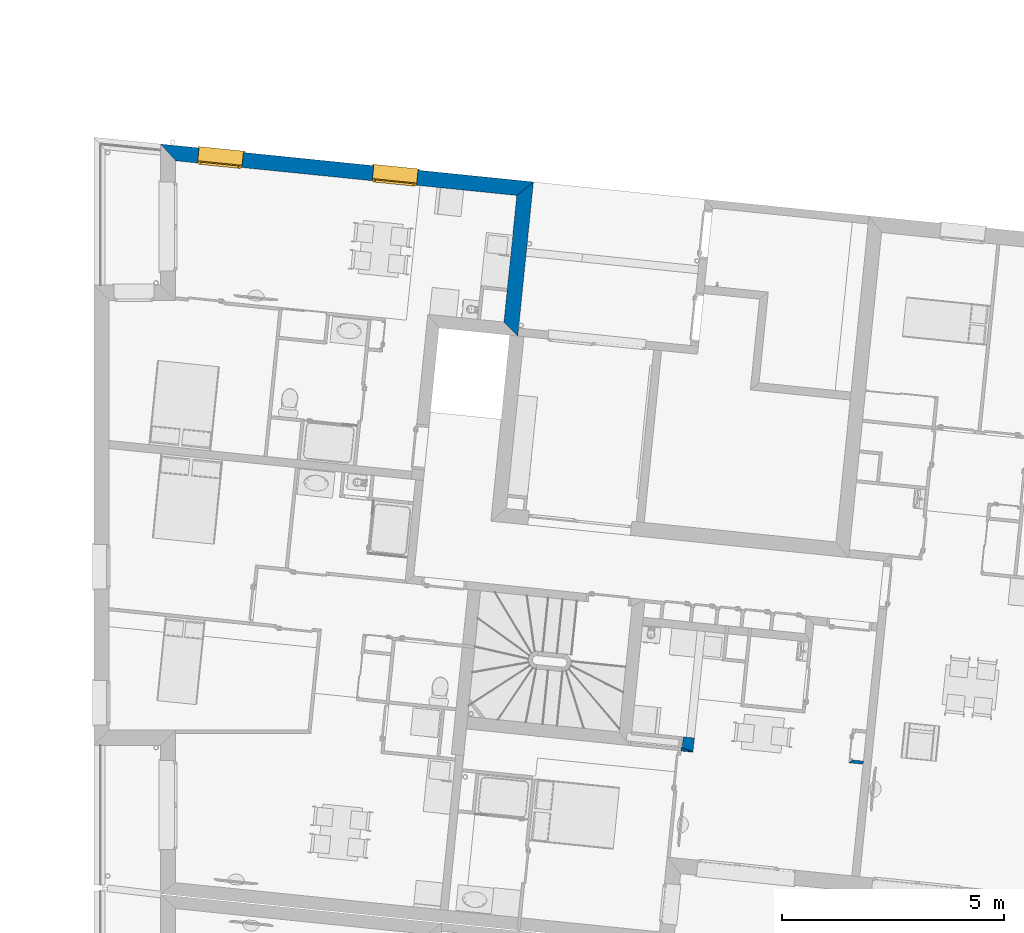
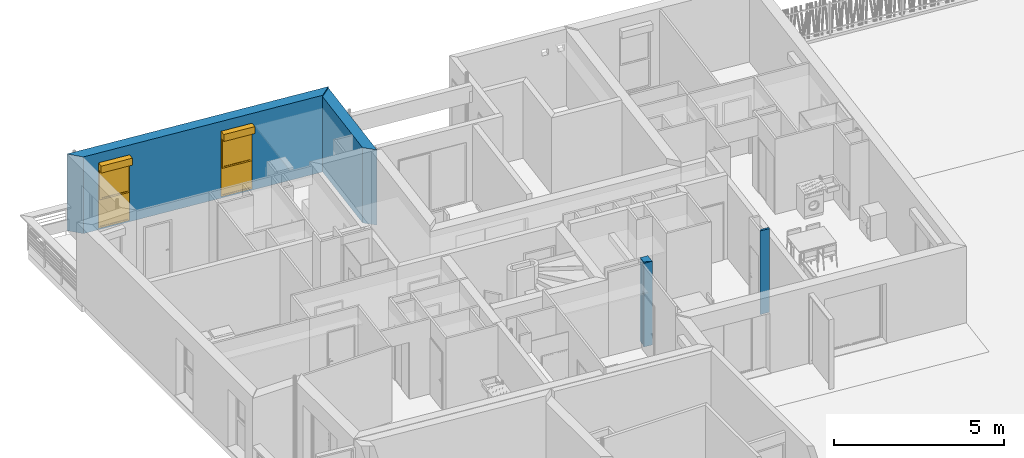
# One storey, part 72 of 171: 5 walls, 2 windows, 2 openings.
"""IFC2X3 building model written with IfcOpenShell, lengths in millimetres."""

from ifc_helpers import new_model, entity, si_unit, converted_unit, derived_unit, money_unit, direction, frame, origin_with_axes, place, context, subcontext, project, spatial, polyline, outline, extrude, open_shell, faceted_brep, surface_model, source, transform, mapped, material, layer, layer_set, layer_usage, type_object, element, fill, save


model = new_model("IFC2X3")

# Units and contexts
model_context = context("Model", 3, precision=0.01, world=origin_with_axes(), true_north=direction((0.0, 1.0)))
body_context = subcontext(model_context, "Body", "Model", "MODEL_VIEW")
ifc_project = project(units=[si_unit("LENGTHUNIT", "METRE", prefix="MILLI"), si_unit("AREAUNIT", "SQUARE_METRE"), si_unit("VOLUMEUNIT", "CUBIC_METRE"), converted_unit("PLANEANGLEUNIT", "DEGREE", entity("IfcPlaneAngleMeasure", 0.0174532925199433), si_unit("PLANEANGLEUNIT", "RADIAN"), dimensions=[0, 0, 0, 0, 0, 0, 0]), money_unit("USD"), converted_unit("TIMEUNIT", "Year", entity("IfcTimeMeasure", 31557600.0), si_unit("TIMEUNIT", "SECOND"), dimensions=[0, 0, 1, 0, 0, 0, 0]), si_unit("MASSUNIT", "GRAM", prefix="KILO"), si_unit("THERMODYNAMICTEMPERATUREUNIT", "DEGREE_CELSIUS"), si_unit("LUMINOUSINTENSITYUNIT", "LUMEN"), si_unit("ENERGYUNIT", "JOULE", prefix="MEGA"), derived_unit("THERMALCONDUCTANCEUNIT", [(si_unit("POWERUNIT", "WATT"), 1), (si_unit("LENGTHUNIT", "METRE"), -1), (si_unit("THERMODYNAMICTEMPERATUREUNIT", "KELVIN"), -1)]), derived_unit("SPECIFICHEATCAPACITYUNIT", [(si_unit("ENERGYUNIT", "JOULE"), 1), (si_unit("MASSUNIT", "GRAM", prefix="KILO"), -1), (si_unit("THERMODYNAMICTEMPERATUREUNIT", "KELVIN"), -1)]), derived_unit("MASSDENSITYUNIT", [(si_unit("MASSUNIT", "GRAM", prefix="KILO"), 1), (si_unit("VOLUMEUNIT", "CUBIC_METRE"), -1)])], contexts=[model_context])

# Site, building, storey
site_placement = place(None, origin_with_axes())
site = spatial("IfcSite", under=ifc_project, at=site_placement, Name="Site", CompositionType="ELEMENT")
building_placement = place(site_placement, origin_with_axes())
building = spatial("IfcBuilding", under=site, at=building_placement, Name="Bâtiment", CompositionType="ELEMENT")
storey_placement = place(building_placement, frame((0.0, 0.0, 3000.0), z_axis=(0.0, 0.0, 1.0), x_axis=(1.0, 0.0, 0.0)))
storey = spatial("IfcBuildingStorey", under=building, at=storey_placement, Name="rdc", CompositionType="ELEMENT", Elevation=3000.0)

# Walls
ifc_material_1 = material(Name="Parpaing 314940890")
ifc_layer_1 = layer(ifc_material_1, 250.0, ventilated="UNKNOWN")
ifc_layer_set_1 = layer_set([ifc_layer_1], Name="Beton  25")
ifc_layer_usage_1 = layer_usage(ifc_layer_set_1, "AXIS2", "NEGATIVE", 0.0)
wall_type_1 = type_object("IfcWallType", Name="Beton  25 250", PredefinedType="NOTDEFINED")
wall_1_placement = place(storey_placement, frame((2230130.028191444, -617343.1612765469, 0.0), z_axis=(0.0, 0.0, 1.0), x_axis=(-0.1011032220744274, -0.9948759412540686, 0.0)))
element("IfcWallStandardCase", 1, at=wall_1_placement, inside=storey, type_object=wall_type_1, material=ifc_layer_usage_1, Name="Mur-142", context=body_context, shape_type="SweptSolid", body=[
    extrude(outline(polyline([(0.0, -250.0), (246.1922032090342, -250.0), (316.1922032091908, 0.0), (0.0, 0.0), (0.0, -250.0)])), origin_with_axes(), (0.0, 0.0, 1.0), 3000.0),
])
ifc_material_2 = material(Name="Hachure solide 268963992")
ifc_layer_2 = layer(ifc_material_2, 70.0, ventilated="UNKNOWN")
ifc_layer_set_2 = layer_set([ifc_layer_2], Name="Cloison 70 0826278243")
ifc_layer_usage_2 = layer_usage(ifc_layer_set_2, "AXIS2", "POSITIVE", 0.0)
wall_type_2 = type_object("IfcWallType", Name="Cloison 70 0826278243 70", PredefinedType="NOTDEFINED")
wall_2_placement = place(storey_placement, frame((2234107.929832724, -617880.438621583, 0.0), z_axis=(0.0, 0.0, 1.0), x_axis=(-0.9949332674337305, 0.1005375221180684, 0.0)))
element("IfcWallStandardCase", 2, at=wall_2_placement, inside=storey, type_object=wall_type_2, material=ifc_layer_usage_2, Name="Mur-153", context=body_context, shape_type="SweptSolid", body=[
    extrude(outline(polyline([(180.0000081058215, 0.0), (429.8110483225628, 0.0), (499.8110483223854, 70.00000000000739), (180.0210155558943, 70.00000000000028), (180.0000081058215, 0.0)])), origin_with_axes(), (0.0, 0.0, 1.0), 3000.0),
])
ifc_layer_usage_3 = layer_usage(ifc_layer_set_2, "AXIS2", "POSITIVE", 0.0)
wall_3_placement = place(storey_placement, frame((2229759.717069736, -617623.3495332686, 0.0), z_axis=(0.0, 0.0, 1.0), x_axis=(0.994875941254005, -0.1011032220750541, 0.0)))
element("IfcWallStandardCase", 3, at=wall_3_placement, inside=storey, type_object=wall_type_2, material=ifc_layer_usage_3, Name="Mur-152", context=body_context, shape_type="SweptSolid", body=[
    extrude(outline(polyline([(70.00000004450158, 0.0), (340.0856902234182, 0.0), (90.0856902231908, 70.00000000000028), (69.99751002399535, 69.99999999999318), (70.00000004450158, 0.0)])), origin_with_axes(), (0.0, 0.0, 1.0), 3000.0),
])

# Wall, openings, windows
ifc_material_3 = material(Name="Parpaing 312445824")
ifc_layer_3 = layer(ifc_material_3, 180.0, ventilated="UNKNOWN")
ifc_material_4 = material(Name="Isolant styromousse 301821074")
ifc_layer_4 = layer(ifc_material_4, 160.0, ventilated="UNKNOWN")
ifc_layer_set_3 = layer_set([ifc_layer_3, ifc_layer_4], Name="isol int 18+16 0018356637")
ifc_layer_usage_4 = layer_usage(ifc_layer_set_3, "AXIS2", "POSITIVE", 0.0)
wall_type_3 = type_object("IfcWallType", Name="isol int 18+16 0018356637 340", PredefinedType="NOTDEFINED")
wall_4_placement = place(storey_placement, frame((2226512.64140385, -604846.9212674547, 0.0), z_axis=(0.0, 0.0, 1.0), x_axis=(-0.9948759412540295, 0.1011032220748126, 0.0)))
wall_4 = element("IfcWallStandardCase", 4, at=wall_4_placement, inside=storey, type_object=wall_type_3, material=ifc_layer_usage_4, Name="Mur-142", context=body_context, shape_type="SweptSolid", body=[
    extrude(outline(polyline([(0.0, 0.0), (8421.560630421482, 0.0), (8045.257334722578, 339.9999999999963), (340.0000338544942, 339.9999999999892), (0.0, 0.0)])), origin_with_axes(), (0.0, 0.0, 1.0), 2750.0),
])
opening_1_placement = place(wall_4_placement, frame((3106.165930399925, 0.0, 49.99999999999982), z_axis=(0.0, 0.0, 1.0), x_axis=(1.0, 0.0, 0.0)))
opening_1 = element("IfcOpeningElement", 5, at=opening_1_placement, cuts=wall_4, Name="Fen-133", context=body_context, shape_type="Brep", body=[
    faceted_brep([(500.0, 280.0000000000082, 2100.0), (-500.0, 280.0000000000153, 2100.0), (-500.0, -848.084050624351, 2100.0), (500.0, -848.084050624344, 2100.0), (500.0, 280.0000000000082, 2350.0), (-500.0, 280.0000000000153, 2350.0), (-500.0, 289.9999999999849, 2100.0), (-500.0000000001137, 289.9999999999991, 0.0), (-500.0, -848.084050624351, 0.0), (500.0, -848.084050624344, 0.0), (500.0, 290.0000000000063, 2100.0), (500.0, 290.0000000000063, 0.0), (499.9999999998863, 530.0000000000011, 2100.0), (499.9999999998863, 530.0000000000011, 2350.0), (-500.0, 530.0000000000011, 2350.0), (-500.0, 530.0000000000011, 2100.0), (-500.0000000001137, 1188.084050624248, 2100.0), (-500.0000000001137, 1188.084050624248, 0.0), (500.0, 1188.084050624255, 0.0), (500.0, 1188.084050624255, 2100.0)], [[[0, 1, 2, 3]], [[1, 0, 4, 5]], [[1, 6, 7, 8, 2]], [[2, 8, 9, 3]], [[10, 0, 3, 9, 11]], [[0, 10, 12, 13, 4]], [[4, 13, 14, 5]], [[6, 1, 5, 14, 15]], [[6, 15, 16, 17, 7]], [[11, 9, 8, 7, 17, 18]], [[12, 10, 11, 18, 19]], [[12, 15, 14, 13]], [[15, 12, 19, 16]], [[19, 18, 17, 16]]]),
])
opening_2_placement = place(wall_4_placement, frame((7051.703439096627, 0.0, 49.99999999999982), z_axis=(0.0, 0.0, 1.0), x_axis=(1.0, 0.0, 0.0)))
opening_2 = element("IfcOpeningElement", 6, at=opening_2_placement, cuts=wall_4, Name="Fen-133", context=body_context, shape_type="Brep", body=[
    faceted_brep([(500.0, 279.999999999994, 2100.0), (-500.0000000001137, 280.0000000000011, 2100.0), (-500.0000000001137, -848.0840506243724, 2100.0), (499.9999999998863, -848.0840506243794, 2100.0), (500.0, 279.999999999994, 2350.0), (-500.0000000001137, 280.0000000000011, 2350.0), (-500.0, 289.9999999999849, 2100.0), (-500.0000000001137, 289.9999999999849, 0.0), (-500.0000000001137, -848.0840506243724, 0.0), (499.9999999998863, -848.0840506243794, 0.0), (499.9999999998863, 289.9999999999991, 2100.0), (499.9999999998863, 289.9999999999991, 0.0), (499.9999999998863, 530.0000000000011, 2100.0), (499.9999999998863, 530.0000000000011, 2350.0), (-500.0000000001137, 530.0000000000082, 2350.0), (-500.0000000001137, 530.0000000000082, 2100.0), (-500.0000000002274, 1188.084050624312, 2100.0), (-500.0000000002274, 1188.084050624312, 0.0), (500.0, 1188.084050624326, 0.0), (500.0, 1188.084050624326, 2100.0)], [[[0, 1, 2, 3]], [[1, 0, 4, 5]], [[1, 6, 7, 8, 2]], [[2, 8, 9, 3]], [[10, 0, 3, 9, 11]], [[0, 10, 12, 13, 4]], [[4, 13, 14, 5]], [[6, 1, 5, 14, 15]], [[6, 15, 16, 17, 7]], [[11, 9, 8, 7, 17, 18]], [[12, 10, 11, 18, 19]], [[12, 15, 14, 13]], [[15, 12, 19, 16]], [[19, 18, 17, 16]]]),
])
window_style = type_object("IfcWindowStyle", Name="Fenêtre 27", ConstructionType="NOTDEFINED", OperationType="DOUBLE_PANEL_HORIZONTAL", ParameterTakesPrecedence=False, Sizeable=False)
shared_shape = source(origin_with_axes(), body_context, "Body", "SurfaceModel", [
    surface_model("IfcShellBasedSurfaceModel", [(500.0, -51.00000000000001, 40.00000000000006), (500.0, -51.00000000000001, 50.00000000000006), (-500.0, -51.00000000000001, 50.0), (-500.0, -51.00000000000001, 40.0), (530.0, -369.9999999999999, 28.96551724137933), (530.0, -339.9999999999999, 30.00324289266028), (500.0, -339.9999999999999, 30.00324289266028), (-500.0, -339.9999999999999, 30.00324289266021), (-530.0, -339.9999999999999, 30.00324289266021), (-530.0, -369.9999999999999, 28.96551724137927), (530.0, -369.9999999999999, 8.96551724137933), (-530.0, -369.9999999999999, 8.965517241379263), (530.0, -359.9999999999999, 18.96551724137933), (-530.0, -359.9999999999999, 18.96551724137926)], [open_shell([[[0, 1, 2, 3]], [[4, 5, 6, 0, 3, 7, 8, 9]], [[10, 4, 9, 11]], [[12, 10, 11, 13]]])]),
    faceted_brep([(-500.0, -59.99999999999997, 2350.0), (-497.0, -59.99999999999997, 2350.0), (-497.0, 190.0, 2350.0), (-500.0, 190.0, 2350.0), (-500.0, -59.99999999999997, 2100.0), (-497.0, -59.99999999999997, 2100.0), (-497.0, 190.0, 2100.0), (-500.0, 190.0, 2100.0)], [[[0, 1, 2, 3]], [[4, 5, 1, 0]], [[1, 5, 6, 2]], [[3, 2, 6, 7]], [[0, 3, 7, 4]], [[7, 6, 5, 4]]]),
    faceted_brep([(497.0, -59.99999999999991, 2350.0), (500.0, -59.99999999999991, 2350.0), (500.0, 190.0000000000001, 2350.0), (497.0, 190.0000000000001, 2350.0), (497.0, -59.99999999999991, 2100.0), (500.0, -59.99999999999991, 2100.0), (500.0, 190.0000000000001, 2100.0), (497.0, 190.0000000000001, 2100.0)], [[[0, 1, 2, 3]], [[4, 5, 1, 0]], [[1, 5, 6, 2]], [[3, 2, 6, 7]], [[0, 3, 7, 4]], [[7, 6, 5, 4]]]),
    faceted_brep([(-497.0, -60.0, 2100.0), (497.0, -59.99999999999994, 2100.0), (497.0, -59.99999999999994, 2350.0), (-497.0, -60.0, 2350.0), (-497.0, -56.99999999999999, 2100.0), (497.0, -56.99999999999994, 2100.0), (497.0, -56.99999999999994, 2347.0), (497.0, 187.0000000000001, 2347.0), (497.0, 187.0000000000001, 2103.0), (497.0, -37.99999999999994, 2103.0), (497.0, -37.99999999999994, 2100.0), (497.0, 190.0000000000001, 2100.0), (497.0, 190.0000000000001, 2350.0), (-497.0, 190.0, 2350.0), (-497.0, 190.0, 2100.0), (-497.0, -37.99999999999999, 2100.0), (-497.0, -37.99999999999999, 2103.0), (-497.0, 187.0, 2103.0), (-497.0, 187.0, 2347.0), (-497.0, -56.99999999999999, 2347.0)], [[[0, 1, 2, 3]], [[4, 5, 1, 0]], [[1, 5, 6, 7, 8, 9, 10, 11, 12, 2]], [[3, 2, 12, 13]], [[0, 3, 13, 14, 15, 16, 17, 18, 19, 4]], [[19, 6, 5, 4]], [[18, 7, 6, 19]], [[17, 8, 7, 18]], [[16, 9, 8, 17]], [[15, 10, 9, 16]], [[14, 11, 10, 15]], [[13, 12, 11, 14]]]),
    faceted_brep([(-494.0, -40.37442957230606, 2206.419644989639), (-494.0, -41.99999999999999, 2225.0), (-494.0, -40.37442957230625, 2243.580355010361), (-494.0, -35.54711042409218, 2261.596155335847), (-494.0, -27.66471820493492, 2278.5), (-494.0, -16.96675541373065, 2293.77827423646), (-494.0, -3.778274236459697, 2306.966755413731), (-494.0, 11.5, 2317.664718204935), (-494.0, 28.40384466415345, 2325.547110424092), (-494.0, 46.41964498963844, 2330.374429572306), (-494.0, 64.99999999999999, 2332.0), (-494.0, 83.58035501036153, 2330.374429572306), (-494.0, 101.5961553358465, 2325.547110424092), (-494.0, 118.5, 2317.664718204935), (-494.0, 133.7782742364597, 2306.966755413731), (-494.0, 146.9667554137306, 2293.77827423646), (-494.0, 157.6647182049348, 2278.5), (-494.0, 165.5471104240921, 2261.596155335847), (-494.0, 170.3744295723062, 2243.580355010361), (-494.0, 171.9999999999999, 2225.0), (-494.0, 170.3744295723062, 2206.419644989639), (-494.0, 165.5471104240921, 2188.403844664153), (-494.0, 157.6647182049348, 2171.5), (-494.0, 146.9667554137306, 2156.22172576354), (-494.0, 133.7782742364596, 2143.03324458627), (-494.0, 118.4999999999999, 2132.335281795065), (-494.0, 101.5961553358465, 2124.452889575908), (-494.0, 83.58035501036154, 2119.625570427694), (-494.0, 65.00000000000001, 2118.0), (-494.0, 46.4196449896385, 2119.625570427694), (-494.0, 28.40384466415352, 2124.452889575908), (-494.0, 11.50000000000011, 2132.335281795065), (-494.0, -3.778274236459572, 2143.03324458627), (-494.0, -16.9667554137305, 2156.22172576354), (-494.0, -27.66471820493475, 2171.5), (-494.0, -35.54711042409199, 2188.403844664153), (494.0, -40.374429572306, 2206.419644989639), (494.0, -41.99999999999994, 2225.0), (494.0, -40.37442957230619, 2243.580355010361), (494.0, -35.54711042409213, 2261.596155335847), (494.0, -27.66471820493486, 2278.5), (494.0, -16.96675541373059, 2293.77827423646), (494.0, -3.778274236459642, 2306.966755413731), (494.0, 11.50000000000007, 2317.664718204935), (494.0, 28.40384466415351, 2325.547110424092), (494.0, 46.41964498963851, 2330.374429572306), (494.0, 65.00000000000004, 2332.0), (494.0, 83.58035501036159, 2330.374429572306), (494.0, 101.5961553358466, 2325.547110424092), (494.0, 118.5, 2317.664718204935), (494.0, 133.7782742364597, 2306.966755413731), (494.0, 146.9667554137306, 2293.77827423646), (494.0, 157.6647182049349, 2278.5), (494.0, 165.5471104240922, 2261.596155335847), (494.0, 170.3744295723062, 2243.580355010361), (494.0, 172.0, 2225.0), (494.0, 170.3744295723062, 2206.419644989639), (494.0, 165.5471104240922, 2188.403844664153), (494.0, 157.6647182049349, 2171.5), (494.0, 146.9667554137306, 2156.22172576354), (494.0, 133.7782742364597, 2143.03324458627), (494.0, 118.5, 2132.335281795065), (494.0, 101.5961553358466, 2124.452889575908), (494.0, 83.5803550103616, 2119.625570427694), (494.0, 65.00000000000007, 2118.0), (494.0, 46.41964498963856, 2119.625570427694), (494.0, 28.40384466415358, 2124.452889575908), (494.0, 11.50000000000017, 2132.335281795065), (494.0, -3.778274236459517, 2143.03324458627), (494.0, -16.96675541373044, 2156.22172576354), (494.0, -27.6647182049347, 2171.5), (494.0, -35.54711042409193, 2188.403844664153)], [[[0, 1, 2, 3, 4, 5, 6, 7, 8, 9, 10, 11, 12, 13, 14, 15, 16, 17, 18, 19, 20, 21, 22, 23, 24, 25, 26, 27, 28, 29, 30, 31, 32, 33, 34, 35]], [[0, 36, 37, 1]], [[1, 37, 38, 2]], [[2, 38, 39, 3]], [[3, 39, 40, 4]], [[4, 40, 41, 5]], [[5, 41, 42, 6]], [[6, 42, 43, 7]], [[7, 43, 44, 8]], [[8, 44, 45, 9]], [[9, 45, 46, 10]], [[10, 46, 47, 11]], [[11, 47, 48, 12]], [[12, 48, 49, 13]], [[13, 49, 50, 14]], [[14, 50, 51, 15]], [[15, 51, 52, 16]], [[16, 52, 53, 17]], [[17, 53, 54, 18]], [[18, 54, 55, 19]], [[19, 55, 56, 20]], [[20, 56, 57, 21]], [[21, 57, 58, 22]], [[22, 58, 59, 23]], [[23, 59, 60, 24]], [[24, 60, 61, 25]], [[25, 61, 62, 26]], [[26, 62, 63, 27]], [[27, 63, 64, 28]], [[28, 64, 65, 29]], [[29, 65, 66, 30]], [[30, 66, 67, 31]], [[31, 67, 68, 32]], [[32, 68, 69, 33]], [[33, 69, 70, 34]], [[34, 70, 71, 35]], [[35, 71, 36, 0]], [[36, 71, 70, 69, 68, 67, 66, 65, 64, 63, 62, 61, 60, 59, 58, 57, 56, 55, 54, 53, 52, 51, 50, 49, 48, 47, 46, 45, 44, 43, 42, 41, 40, 39, 38, 37]]]),
    faceted_brep([(500.0, -34.99999999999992, 30.0), (500.0, -34.99999999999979, 2100.0), (500.0, -59.99999999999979, 2100.0), (500.0, -59.99999999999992, 30.0), (475.0, -34.99999999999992, 30.0), (475.0, -34.99999999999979, 2100.0), (475.0, -37.99999999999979, 2100.0), (497.0, -37.99999999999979, 2100.0), (497.0, -56.99999999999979, 2100.0), (475.0, -56.99999999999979, 2100.0), (475.0, -59.99999999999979, 2100.0), (475.0, -59.99999999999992, 30.0), (475.0, -56.99999999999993, 30.0), (497.0, -56.99999999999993, 30.0), (497.0, -37.99999999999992, 30.0), (475.0, -37.99999999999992, 30.0)], [[[0, 1, 2, 3]], [[4, 5, 1, 0]], [[1, 5, 6, 7, 8, 9, 10, 2]], [[3, 2, 10, 11]], [[0, 3, 11, 12, 13, 14, 15, 4]], [[15, 6, 5, 4]], [[14, 7, 6, 15]], [[13, 8, 7, 14]], [[12, 9, 8, 13]], [[11, 10, 9, 12]]]),
    faceted_brep([(-500.0, -34.99999999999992, 30.0), (-500.0, -59.99999999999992, 30.0), (-500.0, -59.99999999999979, 2100.0), (-500.0, -34.99999999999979, 2100.0), (-475.0, -34.99999999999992, 30.0), (-475.0, -37.99999999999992, 30.0), (-497.0, -37.99999999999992, 30.0), (-497.0, -56.99999999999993, 30.0), (-475.0, -56.99999999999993, 30.0), (-475.0, -59.99999999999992, 30.0), (-475.0, -59.99999999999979, 2100.0), (-475.0, -56.99999999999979, 2100.0), (-497.0, -56.99999999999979, 2100.0), (-497.0, -37.99999999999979, 2100.0), (-475.0, -37.99999999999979, 2100.0), (-475.0, -34.99999999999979, 2100.0)], [[[0, 1, 2, 3]], [[0, 4, 5, 6, 7, 8, 9, 1]], [[1, 9, 10, 2]], [[3, 2, 10, 11, 12, 13, 14, 15]], [[4, 0, 3, 15]], [[5, 4, 15, 14]], [[6, 5, 14, 13]], [[7, 6, 13, 12]], [[8, 7, 12, 11]], [[9, 8, 11, 10]]]),
    faceted_brep([(497.0, -46.66666666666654, 2225.0), (497.0, -46.66666666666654, 2216.666666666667), (-497.0, -46.6666666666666, 2216.666666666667), (-497.0, -46.6666666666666, 2225.0), (497.0, -51.66666666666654, 2225.0), (497.0, -51.66666666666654, 2216.666666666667), (497.0, -49.99999999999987, 2200.0), (497.0, -44.99999999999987, 2200.0), (-497.0, -44.99999999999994, 2200.0), (-497.0, -49.99999999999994, 2200.0), (-497.0, -51.6666666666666, 2216.666666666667), (-497.0, -51.6666666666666, 2225.0)], [[[0, 1, 2, 3]], [[4, 5, 6, 7, 1, 0]], [[2, 1, 7, 8]], [[3, 2, 8, 9, 10, 11]], [[3, 11, 4, 0]], [[10, 5, 4, 11]], [[9, 6, 5, 10]], [[8, 7, 6, 9]]]),
    faceted_brep([(-497.0, -44.99999999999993, 2200.0), (497.0, -44.99999999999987, 2200.0), (497.0, -46.66666666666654, 2183.333333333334), (-497.0, -46.6666666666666, 2183.333333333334), (-497.0, -49.99999999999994, 2200.0), (497.0, -49.99999999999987, 2200.0), (497.0, -51.66666666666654, 2183.333333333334), (497.0, -51.66666666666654, 2166.666666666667), (497.0, -49.99999999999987, 2150.000000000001), (497.0, -44.99999999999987, 2150.000000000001), (497.0, -46.66666666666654, 2166.666666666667), (-497.0, -46.6666666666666, 2166.666666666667), (-497.0, -44.99999999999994, 2150.000000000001), (-497.0, -49.99999999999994, 2150.000000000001), (-497.0, -51.6666666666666, 2166.666666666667), (-497.0, -51.6666666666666, 2183.333333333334)], [[[0, 1, 2, 3]], [[4, 5, 1, 0]], [[1, 5, 6, 7, 8, 9, 10, 2]], [[3, 2, 10, 11]], [[0, 3, 11, 12, 13, 14, 15, 4]], [[15, 6, 5, 4]], [[14, 7, 6, 15]], [[13, 8, 7, 14]], [[12, 9, 8, 13]], [[11, 10, 9, 12]]]),
    faceted_brep([(-497.0, -44.99999999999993, 2150.000000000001), (497.0, -44.99999999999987, 2150.000000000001), (497.0, -46.66666666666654, 2133.333333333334), (-497.0, -46.6666666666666, 2133.333333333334), (-497.0, -49.99999999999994, 2150.000000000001), (497.0, -49.99999999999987, 2150.000000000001), (497.0, -51.66666666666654, 2133.333333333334), (497.0, -51.66666666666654, 2116.666666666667), (497.0, -49.99999999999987, 2100.000000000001), (497.0, -44.99999999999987, 2100.000000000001), (497.0, -46.66666666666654, 2116.666666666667), (-497.0, -46.6666666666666, 2116.666666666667), (-497.0, -44.99999999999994, 2100.000000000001), (-497.0, -49.99999999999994, 2100.000000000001), (-497.0, -51.6666666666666, 2116.666666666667), (-497.0, -51.6666666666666, 2133.333333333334)], [[[0, 1, 2, 3]], [[4, 5, 1, 0]], [[1, 5, 6, 7, 8, 9, 10, 2]], [[3, 2, 10, 11]], [[0, 3, 11, 12, 13, 14, 15, 4]], [[15, 6, 5, 4]], [[14, 7, 6, 15]], [[13, 8, 7, 14]], [[12, 9, 8, 13]], [[11, 10, 9, 12]]]),
    faceted_brep([(-475.0000000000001, 0.0, 2050.0), (-500.0, 0.0, 2050.0), (-500.0, -50.00000000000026, 2050.0), (-450.0, -50.00000000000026, 2050.0), (-450.0, -25.00000000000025, 2050.0), (-475.0000000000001, -25.00000000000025, 2050.0), (-475.0000000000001, 0.0, 1025.0), (-450.0, 0.0, 1025.0), (-450.0, 0.0, 950.0), (-450.0, 0.0, 50.00000000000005), (-500.0, 0.0, 50.00000000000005), (-500.0, -50.00000000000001, 50.00000000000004), (-450.0, -50.00000000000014, 1050.0), (-450.0, -50.00000000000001, 50.00000000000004), (-450.0, -50.00000000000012, 950.0), (-450.0, -25.00000000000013, 1050.0), (-450.0, -25.00000000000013, 1025.0), (-475.0000000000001, -25.00000000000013, 1025.0)], [[[0, 1, 2, 3, 4, 5]], [[6, 7, 8, 9, 10, 1, 0]], [[1, 10, 11, 2]], [[12, 3, 2, 11, 13, 14]], [[4, 3, 12, 15]], [[15, 16, 17, 5, 4]], [[5, 17, 6, 0]], [[6, 17, 16, 7]], [[16, 15, 12, 14, 8, 7]], [[9, 8, 14, 13]], [[10, 9, 13, 11]]]),
    faceted_brep([(450.0, -25.00000000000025, 2050.0), (450.0, -50.00000000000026, 2050.0), (500.0, -50.00000000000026, 2050.0), (500.0, 0.0, 2050.0), (475.0000000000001, 0.0, 2050.0), (475.0000000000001, -25.00000000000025, 2050.0), (450.0, -25.00000000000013, 1050.0), (450.0, -50.00000000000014, 1050.0), (500.0, -50.00000000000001, 50.00000000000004), (450.0, -50.00000000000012, 950.0), (450.0, -50.00000000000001, 50.00000000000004), (500.0, 0.0, 50.00000000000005), (475.0000000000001, 0.0, 1025.0), (450.0, 0.0, 50.00000000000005), (450.0, 0.0, 950.0), (450.0, 0.0, 1025.0), (475.0000000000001, -25.00000000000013, 1025.0), (450.0, -25.00000000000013, 1025.0)], [[[0, 1, 2, 3, 4, 5]], [[6, 7, 1, 0]], [[8, 2, 1, 7, 9, 10]], [[11, 3, 2, 8]], [[12, 4, 3, 11, 13, 14, 15]], [[12, 16, 5, 4]], [[5, 16, 17, 6, 0]], [[17, 15, 14, 9, 7, 6]], [[14, 13, 10, 9]], [[13, 11, 8, 10]], [[15, 17, 16, 12]]]),
    faceted_brep([(-450.0, -25.00000000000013, 1050.0), (-450.0, -50.00000000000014, 1050.0), (450.0, -50.00000000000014, 1050.0), (450.0, -25.00000000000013, 1050.0), (-450.0, -25.00000000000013, 1025.0), (-450.0, 0.0, 1025.0), (-450.0, 0.0, 950.0), (-450.0, -50.00000000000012, 950.0), (450.0, -50.00000000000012, 950.0), (450.0, -25.00000000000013, 1025.0), (450.0, 0.0, 950.0), (450.0, 0.0, 1025.0)], [[[0, 1, 2, 3]], [[4, 5, 6, 7, 1, 0]], [[8, 2, 1, 7]], [[9, 3, 2, 8, 10, 11]], [[9, 4, 0, 3]], [[5, 4, 9, 11]], [[11, 10, 6, 5]], [[6, 10, 8, 7]]]),
    faceted_brep([(-475.0000000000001, 0.0, 2050.0), (-500.0, 0.0, 2050.0), (-500.0, 0.0, 2100.0), (500.0, 0.0, 2100.0), (500.0, 0.0, 2050.0), (475.0000000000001, 0.0, 2050.0), (475.0000000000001, 0.0, 2075.0), (-475.0000000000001, 0.0, 2075.0), (-475.0000000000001, -25.00000000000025, 2050.0), (-450.0, -25.00000000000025, 2050.0), (-450.0, -50.00000000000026, 2050.0), (-500.0, -50.00000000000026, 2050.0), (-500.0, -50.00000000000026, 2100.0), (500.0, -50.00000000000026, 2100.0), (500.0, -50.00000000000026, 2050.0), (475.0000000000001, -25.00000000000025, 2050.0), (450.0, -50.00000000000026, 2050.0), (450.0, -25.00000000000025, 2050.0), (475.0000000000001, -25.00000000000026, 2075.0), (-475.0000000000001, -25.00000000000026, 2075.0)], [[[0, 1, 2, 3, 4, 5, 6, 7]], [[8, 9, 10, 11, 1, 0]], [[2, 1, 11, 12]], [[3, 2, 12, 13]], [[4, 3, 13, 14]], [[15, 5, 4, 14, 16, 17]], [[5, 15, 18, 6]], [[6, 18, 19, 7]], [[7, 19, 8, 0]], [[17, 9, 8, 19, 18, 15]], [[17, 16, 10, 9]], [[14, 13, 12, 11, 10, 16]]]),
    faceted_brep([(-450.0, -50.00000000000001, 50.0), (-450.0, 0.0, 50.00000000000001), (-500.0, 0.0, 50.00000000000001), (-500.0, -50.00000000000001, 50.0), (450.0, -50.00000000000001, 50.0), (450.0, 0.0, 50.00000000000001), (500.0, 0.0, 50.00000000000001), (500.0, 0.0, 0.0), (-500.0, 0.0, 0.0), (-500.0, -50.0, 0.0), (500.0, -50.0, 0.0), (500.0, -50.00000000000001, 50.0)], [[[0, 1, 2, 3]], [[4, 5, 1, 0]], [[1, 5, 6, 7, 8, 2]], [[3, 2, 8, 9]], [[0, 3, 9, 10, 11, 4]], [[11, 6, 5, 4]], [[10, 7, 6, 11]], [[9, 8, 7, 10]]]),
    faceted_brep([(-425.0000000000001, -25.00000000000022, 2025.0), (-425.0000000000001, 24.99999999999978, 2025.0), (-475.0000000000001, 24.99999999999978, 2025.0), (-475.0000000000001, -25.00000000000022, 2025.0), (-425.0000000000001, -25.00000000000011, 1075.0), (-425.0000000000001, 24.9999999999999, 1075.0), (-475.0000000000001, 24.9999999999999, 1075.0), (-475.0000000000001, -25.0000000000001, 1075.0)], [[[0, 1, 2, 3]], [[4, 5, 1, 0]], [[1, 5, 6, 2]], [[3, 2, 6, 7]], [[0, 3, 7, 4]], [[7, 6, 5, 4]]]),
    faceted_brep([(425.0000000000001, -25.00000000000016, 1075.0), (425.0000000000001, 24.99999999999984, 1075.0), (475.0000000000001, 24.99999999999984, 1075.0), (475.0000000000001, -25.00000000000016, 1075.0), (425.0000000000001, -25.00000000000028, 2025.0), (425.0000000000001, 24.99999999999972, 2025.0), (475.0000000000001, 24.99999999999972, 2025.0), (475.0000000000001, -25.00000000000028, 2025.0)], [[[0, 1, 2, 3]], [[4, 5, 1, 0]], [[1, 5, 6, 2]], [[3, 2, 6, 7]], [[0, 3, 7, 4]], [[7, 6, 5, 4]]]),
    faceted_brep([(475.0000000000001, -25.00000000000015, 1025.0), (475.0000000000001, 24.99999999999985, 1025.0), (475.0000000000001, 24.99999999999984, 1075.0), (475.0000000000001, -25.00000000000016, 1075.0), (-475.0000000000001, -25.0000000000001, 1025.0), (-475.0000000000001, 24.9999999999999, 1025.0), (-475.0000000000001, 24.9999999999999, 1075.0), (-425.0000000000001, 24.9999999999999, 1075.0), (425.0000000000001, 24.99999999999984, 1075.0), (425.0000000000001, -25.00000000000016, 1075.0), (-425.0000000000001, -25.00000000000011, 1075.0), (-475.0000000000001, -25.0000000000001, 1075.0)], [[[0, 1, 2, 3]], [[4, 5, 1, 0]], [[1, 5, 6, 7, 8, 2]], [[3, 2, 8, 9]], [[0, 3, 9, 10, 11, 4]], [[11, 6, 5, 4]], [[10, 7, 6, 11]], [[9, 8, 7, 10]]]),
    faceted_brep([(-475.0000000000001, -25.00000000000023, 2075.0), (-475.0000000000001, 24.99999999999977, 2075.0), (-475.0000000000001, 24.99999999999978, 2025.0), (-475.0000000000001, -25.00000000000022, 2025.0), (475.0000000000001, -25.00000000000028, 2075.0), (475.0000000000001, 24.99999999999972, 2075.0), (475.0000000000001, 24.99999999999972, 2025.0), (425.0000000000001, 24.99999999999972, 2025.0), (-425.0000000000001, 24.99999999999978, 2025.0), (-425.0000000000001, -25.00000000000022, 2025.0), (425.0000000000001, -25.00000000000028, 2025.0), (475.0000000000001, -25.00000000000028, 2025.0)], [[[0, 1, 2, 3]], [[4, 5, 1, 0]], [[1, 5, 6, 7, 8, 2]], [[3, 2, 8, 9]], [[0, 3, 9, 10, 11, 4]], [[11, 6, 5, 4]], [[10, 7, 6, 11]], [[9, 8, 7, 10]]]),
    surface_model("IfcShellBasedSurfaceModel", [(-425.0000000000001, -10.00000000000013, 1075.0), (425.0000000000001, -10.00000000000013, 1075.0), (425.0000000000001, -10.00000000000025, 2025.0), (-425.0000000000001, -10.00000000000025, 2025.0)], [open_shell([[[0, 1, 2, 3]]])]),
    surface_model("IfcShellBasedSurfaceModel", [(-425.0000000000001, 9.999999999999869, 1075.0), (-425.0000000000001, 9.999999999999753, 2025.0), (425.0000000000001, 9.999999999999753, 2025.0), (425.0000000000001, 9.999999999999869, 1075.0)], [open_shell([[[0, 1, 2, 3]]])]),
    surface_model("IfcShellBasedSurfaceModel", [(-450.0, -35.0, 49.99999999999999), (450.0, -35.0, 49.99999999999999), (450.0, -35.00000000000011, 950.0), (-450.0, -35.00000000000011, 950.0)], [open_shell([[[0, 1, 2, 3]]])]),
    surface_model("IfcShellBasedSurfaceModel", [(-450.0, -15.0, 49.99999999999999), (-450.0, -15.00000000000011, 950.0), (450.0, -15.00000000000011, 950.0), (450.0, -15.0, 49.99999999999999)], [open_shell([[[0, 1, 2, 3]]])]),
])
window_1_placement = place(opening_1_placement, frame((-500.0, 0.0, 0.0), z_axis=(0.0, 0.0, 1.0), x_axis=(1.0, 0.0, 0.0)))
window_1 = element("IfcWindow", 7, at=window_1_placement, inside=storey, type_object=window_style, Name="Fen-133", OverallHeight=2100.0, OverallWidth=1000.0, context=body_context, shape_type="MappedRepresentation", body=[
    mapped(shared_shape, transform((500.0, 340.0000000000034, 0.0))),
])
fill(opening_1, window_1)
window_2_placement = place(opening_2_placement, frame((-500.0000000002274, 0.0, 0.0), z_axis=(0.0, 0.0, 1.0), x_axis=(1.0, 0.0, 0.0)))
window_2 = element("IfcWindow", 8, at=window_2_placement, inside=storey, type_object=window_style, Name="Fen-133", OverallHeight=2100.0, OverallWidth=1000.0, context=body_context, shape_type="MappedRepresentation", body=[
    mapped(shared_shape, transform((500.0000000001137, 339.9999999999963, 0.0))),
])
fill(opening_2, window_2)

# Wall
ifc_layer_usage_5 = layer_usage(ifc_layer_set_3, "AXIS2", "NEGATIVE", 0.0)
wall_5_placement = place(storey_placement, frame((2226512.64140385, -604846.9212674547, 0.0), z_axis=(0.0, 0.0, 1.0), x_axis=(-0.1011033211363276, -0.9948759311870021, 0.0)))
element("IfcWallStandardCase", 9, at=wall_5_placement, inside=storey, type_object=wall_type_3, material=ifc_layer_usage_5, Name="Mur-142", context=body_context, shape_type="SweptSolid", body=[
    extrude(outline(polyline([(340.0000338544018, -340.0000000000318), (3199.99997055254, -340.0000000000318), (3479.999936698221, -1.13686837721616e-10), (0.0, 0.0), (340.0000338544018, -340.0000000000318)])), origin_with_axes(), (0.0, 0.0, 1.0), 2700.0),
])

save(model, "model.ifc")
